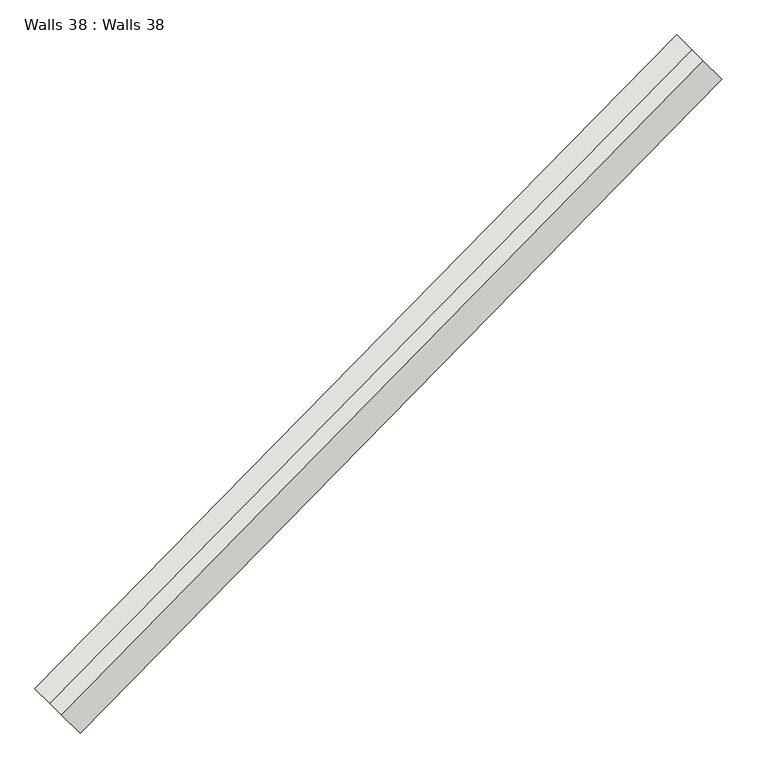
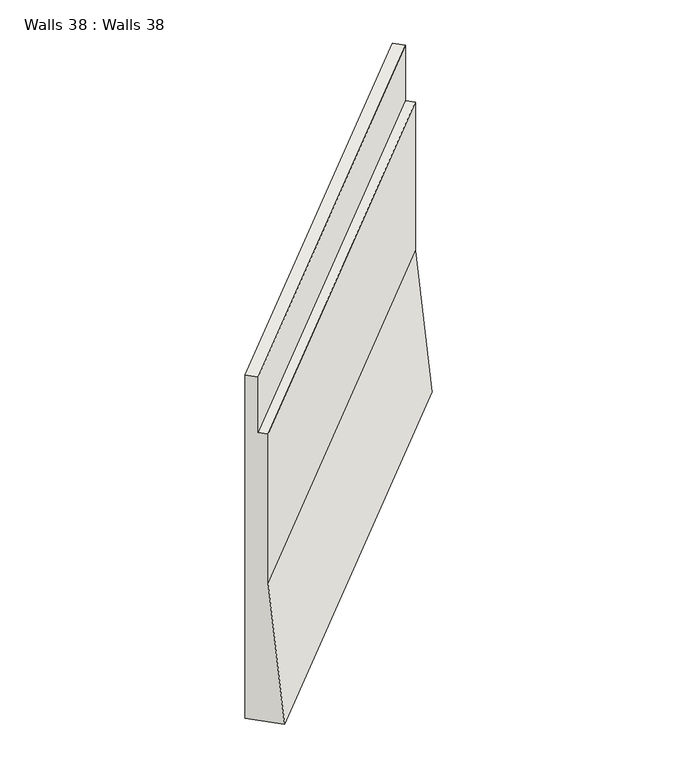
"""IFC4 building model written with IfcOpenShell, lengths in millimetres: wall geometry, Walls 38 : Walls 38."""

from ifc_helpers import new_model, si_unit, origin, place, context, project, spatial, faceted_brep, source, transform, mapped, element, save


def walls_38_walls_38_171be035(model_context):
    return source(origin(), model_context, "Body", "Brep", [
        faceted_brep([(-160382.3840308, -318780.172451, 642680.0), (-160382.3840308, -318780.172451, 636490.0), (-159954.1410836, -319200.4224676, 636490.0), (-160132.5769196, -319025.3170432, 638990.0), (-160132.5769196, -319025.3170432, 641680.0), (-160239.6371101, -318920.2550751, 641680.0), (-160239.6371101, -318920.2550751, 642680.0), (-154288.7765491, -312570.6678128, 642760.0), (-154146.0296284, -312710.7504369, 642760.0), (-154146.0296284, -312710.7504369, 641760.0), (-154038.9694379, -312815.812405, 641760.0), (-154038.9694379, -312815.812405, 639080.0), (-153860.5336019, -312990.9178294, 636580.0), (-154288.7765491, -312570.6678128, 636580.0)], [[[0, 1, 2, 3, 4, 5, 6]], [[7, 8, 9, 10, 11, 12, 13]], [[7, 13, 1, 0]], [[13, 12, 2, 1]], [[12, 11, 3, 2]], [[11, 10, 4, 3]], [[10, 9, 5, 4]], [[9, 8, 6, 5]], [[8, 7, 0, 6]]]),
    ])


if __name__ == "__main__":
    model = new_model("IFC4")
    model_context = context("Model", 3, world=origin())
    ifc_project = project(units=[si_unit("LENGTHUNIT", "METRE", prefix="MILLI")], contexts=[model_context])
    site = spatial("IfcSite", under=ifc_project)
    building = spatial("IfcBuilding", under=site)
    placement = place(None, origin())
    walls_38_walls_38_shape = walls_38_walls_38_171be035(model_context)
    element("IfcWall", 1, ObjectType="Walls 38 : Walls 38", at=placement, inside=building, context=model_context, shape_type="MappedRepresentation", body=[
        mapped(walls_38_walls_38_shape, transform((0.0, 0.0, 0.0), x_axis=(1.0, 0.0, 0.0), y_axis=(0.0, 1.0, 0.0), z_axis=(0.0, 0.0, 1.0))),
    ])
    save(model, "model.ifc")
